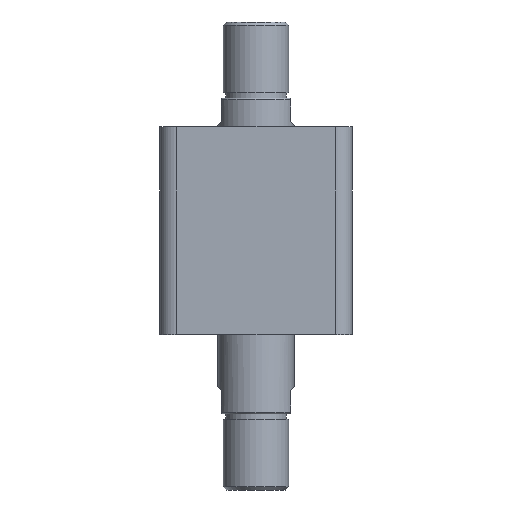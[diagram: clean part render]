
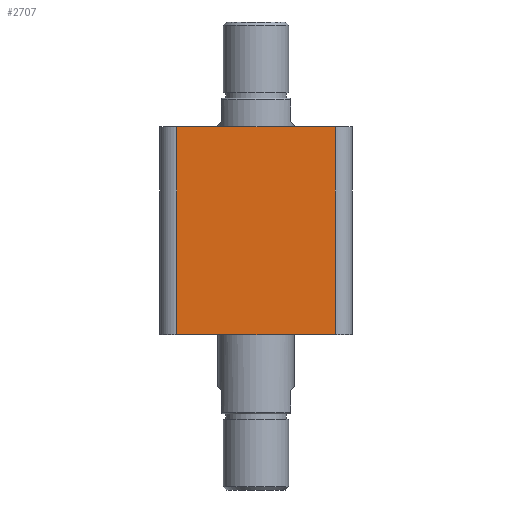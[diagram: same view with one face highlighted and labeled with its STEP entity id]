
A CAD part, front view. The second image highlights one B-rep face of the part: STEP entity #2707.
In plain terms, the highlighted planar face has unit normal (0, -1, 0).
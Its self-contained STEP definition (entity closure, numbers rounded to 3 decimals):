
#133 = DIRECTION ( 'NONE',  ( 0., 0., -1. ) ) ;
#150 = CARTESIAN_POINT ( 'NONE',  ( -57., -57., 123. ) ) ;
#151 = CARTESIAN_POINT ( 'NONE',  ( -47., -57., 123. ) ) ;
#155 = DIRECTION ( 'NONE',  ( 1., 0., 0. ) ) ;
#156 = CARTESIAN_POINT ( 'NONE',  ( 47., -57., 123. ) ) ;
#157 = DIRECTION ( 'NONE',  ( 0., 0., 1. ) ) ;
#158 = CARTESIAN_POINT ( 'NONE',  ( -57., -57., 0. ) ) ;
#159 = DIRECTION ( 'NONE',  ( 1., 0., 0. ) ) ;
#492 = CARTESIAN_POINT ( 'NONE',  ( -47., -57., 0. ) ) ;
#844 = EDGE_CURVE ( 'NONE', #2073, #1795, #3298, .T. ) ;
#845 = EDGE_CURVE ( 'NONE', #2073, #2072, #3299, .T. ) ;
#846 = EDGE_CURVE ( 'NONE', #2075, #2072, #3302, .T. ) ;
#847 = EDGE_CURVE ( 'NONE', #1795, #2075, #3304, .T. ) ;
#1137 = AXIS2_PLACEMENT_3D ( 'NONE', #1451, #1455, #1456 ) ;
#1305 = CARTESIAN_POINT ( 'NONE',  ( 47., -57., 123. ) ) ;
#1306 = CARTESIAN_POINT ( 'NONE',  ( -47., -57., 123. ) ) ;
#1308 = CARTESIAN_POINT ( 'NONE',  ( 47., -57., 0. ) ) ;
#1451 = CARTESIAN_POINT ( 'NONE',  ( -57., -57., 123. ) ) ;
#1453 = PLANE ( 'NONE',  #1137 ) ;
#1455 = DIRECTION ( 'NONE',  ( 0., 1., 0. ) ) ;
#1456 = DIRECTION ( 'NONE',  ( 0., 0., 1. ) ) ;
#1795 = VERTEX_POINT ( 'NONE', #492 ) ;
#2072 = VERTEX_POINT ( 'NONE', #1305 ) ;
#2073 = VERTEX_POINT ( 'NONE', #1306 ) ;
#2075 = VERTEX_POINT ( 'NONE', #1308 ) ;
#2369 = FACE_OUTER_BOUND ( 'NONE', #3079, .T. ) ;
#2707 = ADVANCED_FACE ( 'NONE', ( #2369 ), #1453, .F. ) ;
#3079 = EDGE_LOOP ( 'NONE', ( #3181, #3180, #3179, #3178 ) ) ;
#3178 = ORIENTED_EDGE ( 'NONE', *, *, #844, .T. ) ;
#3179 = ORIENTED_EDGE ( 'NONE', *, *, #845, .F. ) ;
#3180 = ORIENTED_EDGE ( 'NONE', *, *, #846, .T. ) ;
#3181 = ORIENTED_EDGE ( 'NONE', *, *, #847, .T. ) ;
#3298 = LINE ( 'NONE', #151, #3301 ) ;
#3299 = LINE ( 'NONE', #150, #3303 ) ;
#3301 = VECTOR ( 'NONE', #133, 1000. ) ;
#3302 = LINE ( 'NONE', #156, #3305 ) ;
#3303 = VECTOR ( 'NONE', #155, 1000. ) ;
#3304 = LINE ( 'NONE', #158, #3307 ) ;
#3305 = VECTOR ( 'NONE', #157, 1000. ) ;
#3307 = VECTOR ( 'NONE', #159, 1000. ) ;
